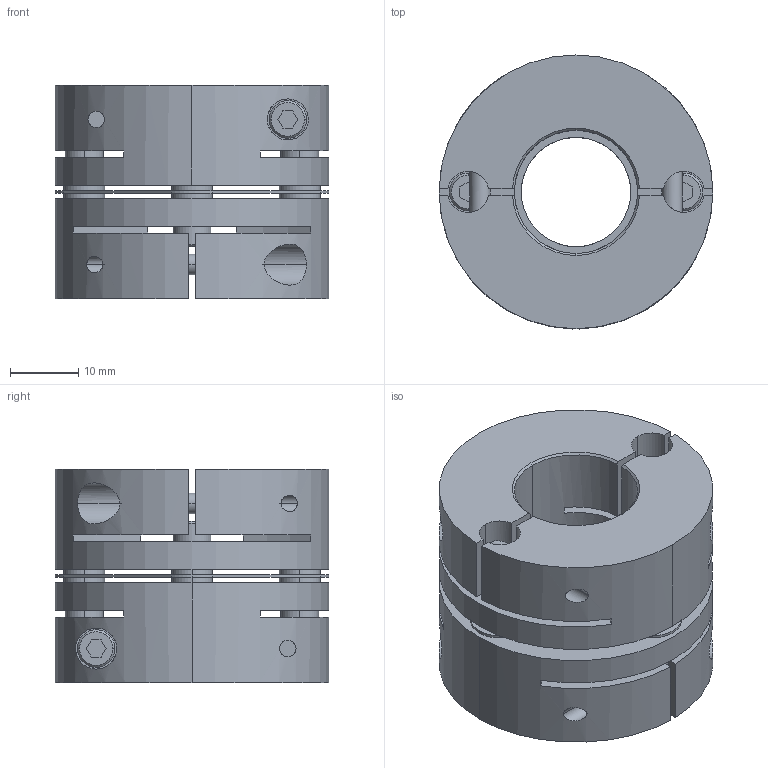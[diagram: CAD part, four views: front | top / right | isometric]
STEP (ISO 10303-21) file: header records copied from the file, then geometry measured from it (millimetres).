
FILE_DESCRIPTION((''),'2;1');
FILE_NAME('LAS-40C-16×18.stp','2014-02-05T09:01:32',(''),(''),'AutoCAD STEP 2000i','AutoCAD 2000i',', , ');
FILE_SCHEMA(('CONFIG_CONTROL_DESIGN'));
Length unit declared in the file: millimetre
Products named in the file (7): LAS-40C-15×15; 忣兜1; LA-4002-D15-1; LA-4002-D15; LA-4002-D10-1; LA-4002-D10; LAS40-ITA
Assembly tree (6 placements, depth 2):
  LAS-40C-15×15
    忣兜1
    LA-4002-D15-1
    LA-4002-D15
    LA-4002-D10-1
    LA-4002-D10
    LAS40-ITA
Bounding box: 40 x 40 x 31.2 mm (x, y, z)
Volume: 27650.5 mm3; surface area: 14936.7 mm2
Topology: 1 solids, 1 shells, 236 faces, 624 edges, 408 vertices
Faces by surface type: plane 112, cylinder 96, cone 28
Entity records: 8247 total; most frequent: CARTESIAN_POINT 2027, DIRECTION 1306, ORIENTED_EDGE 1248, EDGE_CURVE 624, AXIS2_PLACEMENT_3D 479, VERTEX_POINT 408, VECTOR 348, LINE 348
